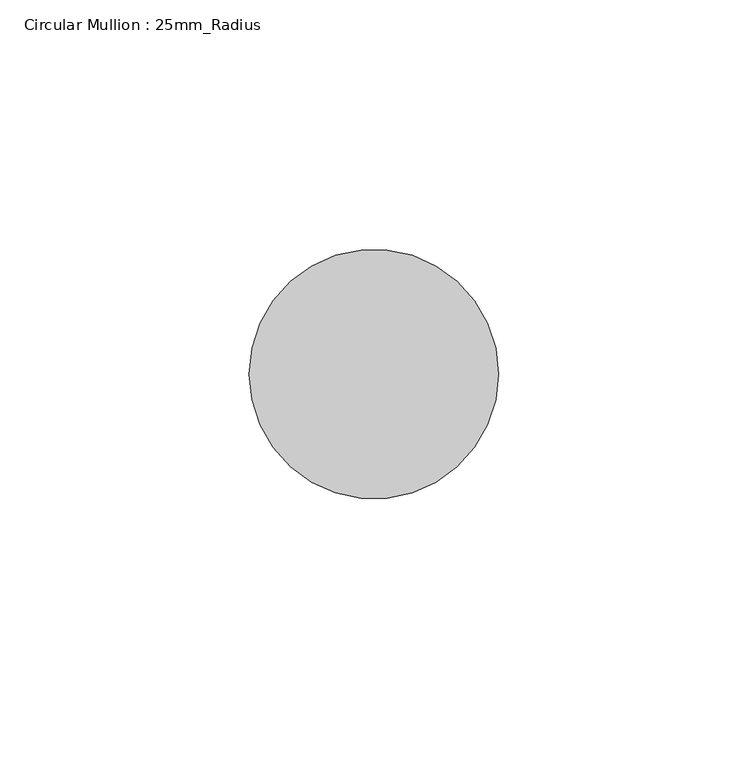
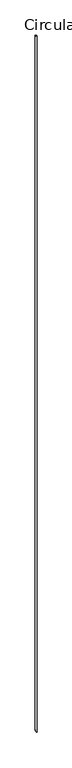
"""IFC4 building model written with IfcOpenShell, lengths in millimetres: member geometry, Circular Mullion : 25mm_Radius."""

import ifcopenshell
import ifcopenshell.guid

model = None  # the IFC model being written
_history = None  # IfcOwnerHistory: only IFC2X3 demands one
_inside = {}  # id of a spatial element -> (the spatial element, [elements in it])
_under = {}  # id of a project, library or spatial element -> (it, [spatial elements below it])
_declared = {}  # id of a project -> (the project, [libraries it declares])
_typed = {}  # id of a type object -> (the type object, [elements of that type])
_made_of = {}  # id of a material, layer set ... -> (it, [elements and type objects made of it])


def new_model(schema):
    """Start an empty IFC model of exactly this schema.

    Asked for "IFC4X3", IfcOpenShell would pick the latest addendum, in which some entities
    have other attributes; the version numbers below select the first issue.
    IFC2X3 requires an IfcOwnerHistory on every rooted entity: one is made here for all.
    """
    global model, _history
    if schema == "IFC4X3":
        model = ifcopenshell.file(schema_version=(4, 3, 0, 0))
    else:
        model = ifcopenshell.file(schema=schema)
    _inside.clear()
    _under.clear()
    _declared.clear()
    _typed.clear()
    _made_of.clear()
    _history = None
    if model.schema == "IFC2X3":
        org = make("IfcOrganization", Name="unknown")
        user = make(
            "IfcPersonAndOrganization",
            ThePerson=make("IfcPerson", FamilyName="unknown"),
            TheOrganization=org,
        )
        app = make(
            "IfcApplication",
            ApplicationDeveloper=org,
            Version="unknown",
            ApplicationFullName="unknown",
            ApplicationIdentifier="unknown",
        )
        _history = make(
            "IfcOwnerHistory",
            OwningUser=user,
            OwningApplication=app,
            ChangeAction="ADDED",
            CreationDate=0,
        )
    return model


def make(cls, **values):
    """One entity of the class cls with the attributes given. An attribute that is None is left unset."""
    return model.create_entity(
        cls, **{name: value for name, value in values.items() if value is not None}
    )


def rooted(cls, **values):
    """An entity with a GlobalId (a new one), such as an element, a storey or a relation."""
    return make(cls, GlobalId=ifcopenshell.guid.new(), OwnerHistory=_history, **values)


def si_unit(unit_type, name, prefix=None):
    """IfcSIUnit, for example si_unit("LENGTHUNIT", "METRE", prefix="MILLI")."""
    return make("IfcSIUnit", UnitType=unit_type, Prefix=prefix, Name=name)


def assignment(units):
    """IfcUnitAssignment: the units of a project."""
    return None if units is None else make("IfcUnitAssignment", Units=units)


def point(xyz):
    """IfcCartesianPoint."""
    return None if xyz is None else make("IfcCartesianPoint", Coordinates=xyz)


def direction(xyz):
    """IfcDirection."""
    return None if xyz is None else make("IfcDirection", DirectionRatios=xyz)


def frame(location, z_axis=None, x_axis=None):
    """IfcAxis2Placement3D, a coordinate frame: its origin and axes. An axis left out is left unset."""
    return make(
        "IfcAxis2Placement3D",
        Location=point(location),
        Axis=direction(z_axis),
        RefDirection=direction(x_axis),
    )


def origin():
    """The frame at (0, 0, 0) with its axes left unset."""
    return frame((0.0, 0.0, 0.0))


def place(relative_to, where):
    """IfcLocalPlacement: puts the frame where relative to a parent placement (None: the world)."""
    return make(
        "IfcLocalPlacement", PlacementRelTo=relative_to, RelativePlacement=where
    )


def context(
    kind, dimensions, precision=None, world=None, true_north=None, identifier=None
):
    """IfcGeometricRepresentationContext, for example the 3D "Model" context."""
    return make(
        "IfcGeometricRepresentationContext",
        ContextIdentifier=identifier,
        ContextType=kind,
        CoordinateSpaceDimension=dimensions,
        Precision=precision,
        WorldCoordinateSystem=world,
        TrueNorth=true_north,
    )


def project(units=None, contexts=None):
    """IfcProject with its units and contexts."""
    return rooted(
        "IfcProject",
        Name="project",
        RepresentationContexts=contexts,
        UnitsInContext=assignment(units),
    )


def spatial(cls, under=None, at=None, **own):
    """A site, building, storey or space (cls), placed at a placement, below another one or the project."""
    s = rooted(cls, ObjectPlacement=at, **own)
    if under is not None:
        _under.setdefault(under.id(), (under, []))[1].append(s)
    return s


def circle_curve(where, radius):
    """IfcCircle in the frame where."""
    return make("IfcCircle", Position=where, Radius=radius)


def ellipse_curve(where, semi_axis1, semi_axis2):
    """IfcEllipse in the frame where."""
    return make(
        "IfcEllipse", Position=where, SemiAxis1=semi_axis1, SemiAxis2=semi_axis2
    )


def shape(context_of_items, identifier, shape_type, items):
    """IfcShapeRepresentation: the items that make up one representation, for example the "Body"."""
    return make(
        "IfcShapeRepresentation",
        ContextOfItems=context_of_items,
        RepresentationIdentifier=identifier,
        RepresentationType=shape_type,
        Items=items,
    )


def source(mapping_origin, context_of_items, identifier, shape_type, items):
    """IfcRepresentationMap: a shape defined once, which mapped items show again and again."""
    return make(
        "IfcRepresentationMap",
        MappingOrigin=mapping_origin,
        MappedRepresentation=shape(context_of_items, identifier, shape_type, items),
    )


def transform(
    local_origin,
    x_axis=None,
    y_axis=None,
    z_axis=None,
    scale=None,
    scale2=None,
    scale3=None,
    uniform=True,
):
    """IfcCartesianTransformationOperator3D, or its non-uniform kind. x_axis, y_axis, z_axis: its Axis1, 2, 3."""
    if uniform:
        return make(
            "IfcCartesianTransformationOperator3D",
            Axis1=direction(x_axis),
            Axis2=direction(y_axis),
            LocalOrigin=point(local_origin),
            Scale=scale,
            Axis3=direction(z_axis),
        )
    return make(
        "IfcCartesianTransformationOperator3DnonUniform",
        Axis1=direction(x_axis),
        Axis2=direction(y_axis),
        LocalOrigin=point(local_origin),
        Scale=scale,
        Axis3=direction(z_axis),
        Scale2=scale2,
        Scale3=scale3,
    )


def mapped(mapping_source, mapping_target):
    """IfcMappedItem: shows the shape of a source again, moved by a transform."""
    return make(
        "IfcMappedItem", MappingSource=mapping_source, MappingTarget=mapping_target
    )


def made_of(thing, what):
    """Note that an element or type object is made of a material, layer set ...; save() writes the relation."""
    if what is not None:
        _made_of.setdefault(what.id(), (what, []))[1].append(thing)
    return thing


def element(
    cls,
    number,
    at=None,
    inside=None,
    cuts=None,
    type_object=None,
    material=None,
    context=None,
    identifier="Body",
    shape_type=None,
    held_by="IfcProductDefinitionShape",
    body=None,
    shapes=None,
    **own,
):
    """One element of the class cls, such as IfcWall. Its Tag is "e" and its number.

    at: its placement. inside: the storey or other place that contains it. cuts: it is an
    opening in that element (IfcRelVoidsElement). A single representation is given by context,
    identifier, shape_type and body (its items); several are given by shapes. held_by: the class
    of the entity that holds the representations. save() writes the other relations.
    """
    e = rooted(cls, Tag="e%d" % number, ObjectPlacement=at, **own)
    if body is not None:
        shapes = [shape(context, identifier, shape_type, body)]
    if shapes is not None:
        e.Representation = make(held_by, Representations=shapes)
    if inside is not None:
        _inside.setdefault(inside.id(), (inside, []))[1].append(e)
    if cuts is not None:
        rooted(
            "IfcRelVoidsElement", RelatingBuildingElement=cuts, RelatedOpeningElement=e
        )
    if type_object is not None:
        _typed.setdefault(type_object.id(), (type_object, []))[1].append(e)
    return made_of(e, material)


def aggregate(whole, parts):
    """IfcRelAggregates: a whole, such as a stair, and the parts it consists of."""
    return rooted("IfcRelAggregates", RelatingObject=whole, RelatedObjects=parts)


def save(model, path):
    """Write the relations noted so far, then the file.

    IfcRelAggregates (storeys below a building ...), IfcRelContainedInSpatialStructure (elements
    in a storey), IfcRelDefinesByType, IfcRelAssociatesMaterial and IfcRelDeclares: one each for
    every whole, place, type object, material and project.
    """
    for whole, parts in _under.values():
        aggregate(whole, parts)
    for where, things in _inside.values():
        rooted(
            "IfcRelContainedInSpatialStructure",
            RelatedElements=things,
            RelatingStructure=where,
        )
    for kind, things in _typed.values():
        rooted("IfcRelDefinesByType", RelatedObjects=things, RelatingType=kind)
    for what, things in _made_of.values():
        rooted("IfcRelAssociatesMaterial", RelatedObjects=things, RelatingMaterial=what)
    for by, libraries in _declared.values():
        rooted("IfcRelDeclares", RelatingContext=by, RelatedDefinitions=libraries)
    model.write(path)


def plane_surface(at):
    """IfcPlane: the flat surface through the origin of the frame at, square to its z axis."""
    return make("IfcPlane", Position=at)


def cylinder_surface(at, radius):
    """IfcCylindricalSurface: all points at the distance radius from the z axis of the frame at."""
    return make("IfcCylindricalSurface", Position=at, Radius=radius)


def advanced_brep(points, edges, surfaces, faces):
    """IfcAdvancedBrep: a solid bounded by faces that lie on surfaces and meet in shared edges.

    An edge is (start, end): straight between two places in points (the first is 0);
    or (start, end, curve); or (start, end, curve, False) where it runs against its curve.
    A face is (place in surfaces, loops), or (place, loops, False) where it looks against
    its surface's normal. A loop lists edges by number (the first is 1), with a minus sign
    where the edge is run from its end to its start. The first loop is the outer one.
    """
    corners = [point(p) for p in points]
    vertices = [make("IfcVertexPoint", VertexGeometry=c) for c in corners]
    made = []
    for start, end, *more in edges:
        made.append(
            make(
                "IfcEdgeCurve",
                EdgeStart=vertices[start],
                EdgeEnd=vertices[end],
                EdgeGeometry=more[0] if more else make("IfcPolyline", Points=[corners[start], corners[end]]),
                SameSense=more[1] if len(more) > 1 else True,
            )
        )
    hull = []
    for where, loops, *sense in faces:
        bounds = []
        for j, loop in enumerate(loops):
            ring = [make("IfcOrientedEdge", EdgeElement=made[abs(k) - 1], Orientation=k > 0) for k in loop]
            bounds.append(
                make(
                    "IfcFaceOuterBound" if j == 0 else "IfcFaceBound",
                    Bound=make("IfcEdgeLoop", EdgeList=ring),
                    Orientation=True,
                )
            )
        hull.append(make("IfcAdvancedFace", Bounds=bounds, FaceSurface=surfaces[where], SameSense=sense[0] if sense else True))
    return make("IfcAdvancedBrep", Outer=make("IfcClosedShell", CfsFaces=hull))


def circular_mullion_25mm_radius_4b37c0ec(model_context):
    return source(origin(), model_context, "Body", "AdvancedBrep", [
        advanced_brep(
        [(0.0, 0.0, 0.0), (-50.0, 0.0, 0.0), (0.0, 0.0, -23650.0), (-50.0, 0.0, -23567.7001843)],
        [
            (0, 1, circle_curve(frame((-25.0, 0.0, 0.0), z_axis=(0.0, 0.0, 1.0), x_axis=(1.0, 0.0, 0.0)), 25.0)),
            (1, 0, circle_curve(frame((-25.0, 0.0, 0.0), z_axis=(0.0, 0.0, 1.0), x_axis=(1.0, 0.0, 0.0)), 25.0)),
            (0, 2),
            (2, 3, ellipse_curve(frame((-25.0, 0.0, -23608.8500922), z_axis=(0.8546388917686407, 0.0, 0.5192228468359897), x_axis=(-0.5192228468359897, 0.0, 0.8546388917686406)), 48.1488828, 25.0)),
            (3, 1),
            (3, 2, ellipse_curve(frame((-25.0, 0.0, -23608.8500922), z_axis=(0.8546388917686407, 0.0, 0.5192228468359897), x_axis=(-0.5192228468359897, 0.0, 0.8546388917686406)), 48.1488828, 25.0)),
        ],
        [
            plane_surface(frame((0.0, -50.0, 0.0), z_axis=(0.0, 0.0, 1.0), x_axis=(-1.0, 0.0, 0.0))),
            cylinder_surface(frame((-25.0, 0.0, 0.0), z_axis=(0.0, 0.0, 1.0), x_axis=(1.0, 0.0, 0.0)), 25.0),
            plane_surface(frame((0.0, -304.8, -23650.0), z_axis=(-0.8546388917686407, 0.0, -0.5192228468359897), x_axis=(-0.5192228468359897, 0.0, 0.8546388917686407))),
        ],
        [
            (0, [[1, 2]]),
            (1, [[-1, 3, 4, 5]]),
            (1, [[-2, -5, 6, -3]]),
            (2, [[-6, -4]]),
        ],
    ),
    ])


if __name__ == "__main__":
    model = new_model("IFC4")
    model_context = context("Model", 3, world=origin())
    ifc_project = project(units=[si_unit("LENGTHUNIT", "METRE", prefix="MILLI")], contexts=[model_context])
    site = spatial("IfcSite", under=ifc_project)
    building = spatial("IfcBuilding", under=site)
    placement = place(None, origin())
    circular_mullion_25mm_radius_shape = circular_mullion_25mm_radius_4b37c0ec(model_context)
    element("IfcMember", 1, ObjectType="Circular Mullion : 25mm_Radius", at=placement, inside=building, context=model_context, shape_type="MappedRepresentation", body=[
        mapped(circular_mullion_25mm_radius_shape, transform((0.0, 0.0, 0.0), x_axis=(1.0, 0.0, 0.0), y_axis=(0.0, 1.0, 0.0), z_axis=(0.0, 0.0, 1.0))),
    ])
    save(model, "model.ifc")
